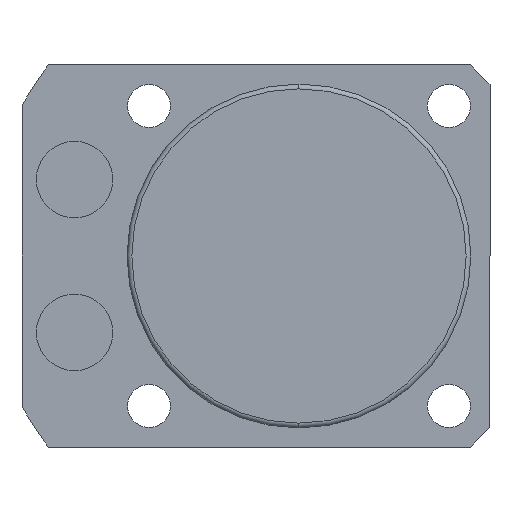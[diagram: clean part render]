
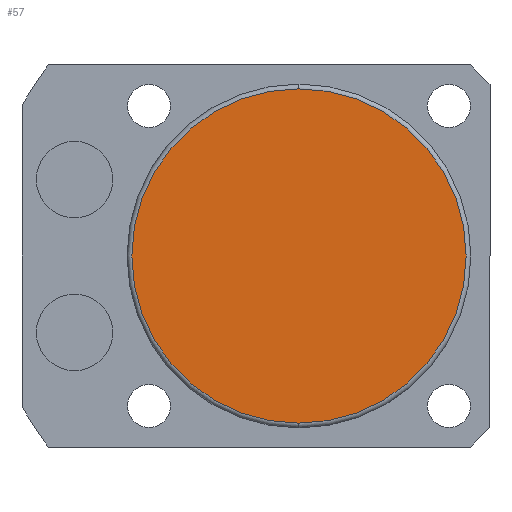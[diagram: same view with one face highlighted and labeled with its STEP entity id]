
A CAD part, front view. The second image highlights one B-rep face of the part: STEP entity #57.
In plain terms, the highlighted planar face has unit normal (0, -1, 0).
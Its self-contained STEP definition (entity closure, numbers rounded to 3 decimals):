
#57 = ADVANCED_FACE ( 'NONE', ( #3218 ), #203, .T. ) ;
#203 = PLANE ( 'NONE',  #3802 ) ;
#270 = CARTESIAN_POINT ( 'NONE',  ( 0., -105.5, -17.5 ) ) ;
#322 = AXIS2_PLACEMENT_3D ( 'NONE', #2876, #4027, #1692 ) ;
#353 = CARTESIAN_POINT ( 'NONE',  ( 0., -105.5, 0. ) ) ;
#671 = CARTESIAN_POINT ( 'NONE',  ( 0., -105.5, 0. ) ) ;
#1085 = DIRECTION ( 'NONE',  ( 0., -1., 0. ) ) ;
#1417 = DIRECTION ( 'NONE',  ( 0., 0., -1. ) ) ;
#1583 = ORIENTED_EDGE ( 'NONE', *, *, #2657, .T. ) ;
#1669 = EDGE_LOOP ( 'NONE', ( #4469, #1583 ) ) ;
#1692 = DIRECTION ( 'NONE',  ( 0., 0., -1. ) ) ;
#1821 = VERTEX_POINT ( 'NONE', #4446 ) ;
#2271 = DIRECTION ( 'NONE',  ( 0., -1., 0. ) ) ;
#2417 = VERTEX_POINT ( 'NONE', #270 ) ;
#2510 = AXIS2_PLACEMENT_3D ( 'NONE', #353, #1085, #3092 ) ;
#2657 = EDGE_CURVE ( 'NONE', #1821, #2417, #4337, .T. ) ;
#2876 = CARTESIAN_POINT ( 'NONE',  ( 0., -105.5, 0. ) ) ;
#3092 = DIRECTION ( 'NONE',  ( 0., 0., -1. ) ) ;
#3218 = FACE_OUTER_BOUND ( 'NONE', #1669, .T. ) ;
#3356 = CIRCLE ( 'NONE', #2510, 17.5 ) ;
#3802 = AXIS2_PLACEMENT_3D ( 'NONE', #671, #2271, #1417 ) ;
#4027 = DIRECTION ( 'NONE',  ( 0., -1., 0. ) ) ;
#4337 = CIRCLE ( 'NONE', #322, 17.5 ) ;
#4446 = CARTESIAN_POINT ( 'NONE',  ( 0., -105.5, 17.5 ) ) ;
#4469 = ORIENTED_EDGE ( 'NONE', *, *, #4534, .T. ) ;
#4534 = EDGE_CURVE ( 'NONE', #2417, #1821, #3356, .T. ) ;
